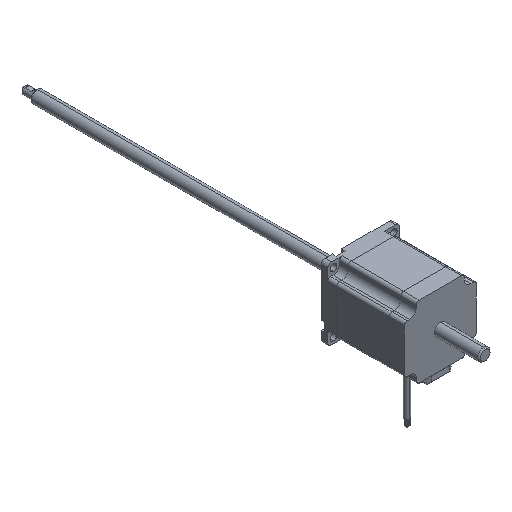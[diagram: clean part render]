
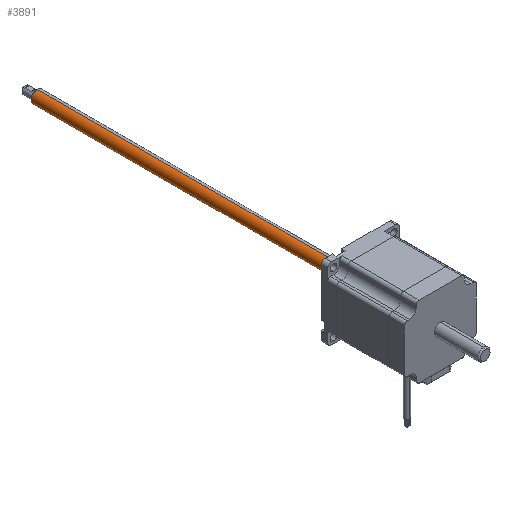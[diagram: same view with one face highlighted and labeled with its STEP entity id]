
A CAD part, isometric view. The second image highlights one B-rep face of the part: STEP entity #3891.
In plain terms, the highlighted cylindrical face has radius 4.763 mm (diameter 9.525 mm), a partial arc.
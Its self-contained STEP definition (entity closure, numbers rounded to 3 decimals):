
#321 = VERTEX_POINT ( 'NONE', #3248 ) ;
#494 = DIRECTION ( 'NONE',  ( 0., 0., 1. ) ) ;
#557 = DIRECTION ( 'NONE',  ( 0., 1., 0. ) ) ;
#578 = EDGE_CURVE ( 'NONE', #5299, #1546, #5227, .T. ) ;
#598 = VECTOR ( 'NONE', #1385, 1000. ) ;
#883 = CARTESIAN_POINT ( 'NONE',  ( 0., -95., 0. ) ) ;
#1007 = CARTESIAN_POINT ( 'NONE',  ( 0., 6.5, 4.763 ) ) ;
#1106 = ORIENTED_EDGE ( 'NONE', *, *, #6450, .T. ) ;
#1168 = AXIS2_PLACEMENT_3D ( 'NONE', #883, #6527, #2396 ) ;
#1385 = DIRECTION ( 'NONE',  ( 0., 1., 0. ) ) ;
#1532 = CARTESIAN_POINT ( 'NONE',  ( 0., 6.5, 0. ) ) ;
#1546 = VERTEX_POINT ( 'NONE', #6427 ) ;
#1780 = AXIS2_PLACEMENT_3D ( 'NONE', #6507, #1930, #2446 ) ;
#1930 = DIRECTION ( 'NONE',  ( 0., -1., 0. ) ) ;
#2106 = CARTESIAN_POINT ( 'NONE',  ( 0., -95., 4.763 ) ) ;
#2184 = FACE_OUTER_BOUND ( 'NONE', #2895, .T. ) ;
#2396 = DIRECTION ( 'NONE',  ( 0., 0., 1. ) ) ;
#2446 = DIRECTION ( 'NONE',  ( 0., 0., 1. ) ) ;
#2895 = EDGE_LOOP ( 'NONE', ( #6134, #4795, #6376, #1106 ) ) ;
#3248 = CARTESIAN_POINT ( 'NONE',  ( 0., 255., 4.763 ) ) ;
#3891 = ADVANCED_FACE ( 'NONE', ( #2184 ), #5979, .T. ) ;
#4348 = AXIS2_PLACEMENT_3D ( 'NONE', #1532, #557, #494 ) ;
#4738 = DIRECTION ( 'NONE',  ( 0., 1., 0. ) ) ;
#4795 = ORIENTED_EDGE ( 'NONE', *, *, #5629, .T. ) ;
#5227 = LINE ( 'NONE', #6042, #598 ) ;
#5299 = VERTEX_POINT ( 'NONE', #6337 ) ;
#5629 = EDGE_CURVE ( 'NONE', #5299, #5648, #5630, .T. ) ;
#5630 = CIRCLE ( 'NONE', #4348, 4.763 ) ;
#5648 = VERTEX_POINT ( 'NONE', #1007 ) ;
#5774 = LINE ( 'NONE', #2106, #6014 ) ;
#5979 = CYLINDRICAL_SURFACE ( 'NONE', #1168, 4.763 ) ;
#6014 = VECTOR ( 'NONE', #4738, 1000. ) ;
#6042 = CARTESIAN_POINT ( 'NONE',  ( 0., -95., -4.763 ) ) ;
#6100 = CIRCLE ( 'NONE', #1780, 4.763 ) ;
#6134 = ORIENTED_EDGE ( 'NONE', *, *, #578, .F. ) ;
#6337 = CARTESIAN_POINT ( 'NONE',  ( 0., 6.5, -4.763 ) ) ;
#6376 = ORIENTED_EDGE ( 'NONE', *, *, #6632, .T. ) ;
#6427 = CARTESIAN_POINT ( 'NONE',  ( 0., 255., -4.763 ) ) ;
#6450 = EDGE_CURVE ( 'NONE', #321, #1546, #6100, .T. ) ;
#6507 = CARTESIAN_POINT ( 'NONE',  ( 0., 255., 0. ) ) ;
#6527 = DIRECTION ( 'NONE',  ( 0., 1., 0. ) ) ;
#6632 = EDGE_CURVE ( 'NONE', #5648, #321, #5774, .T. ) ;
